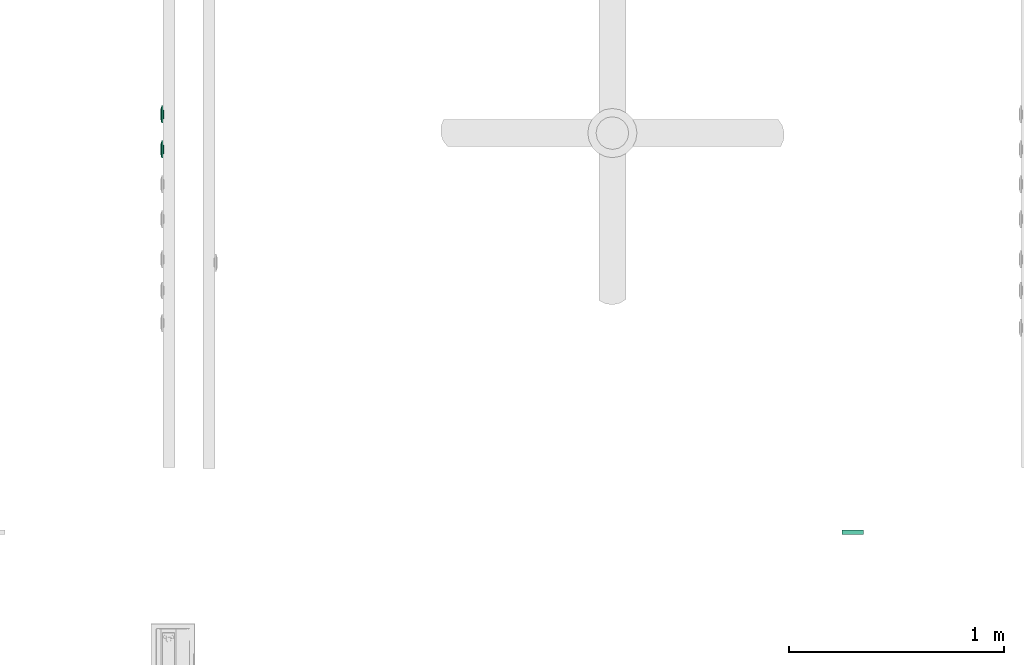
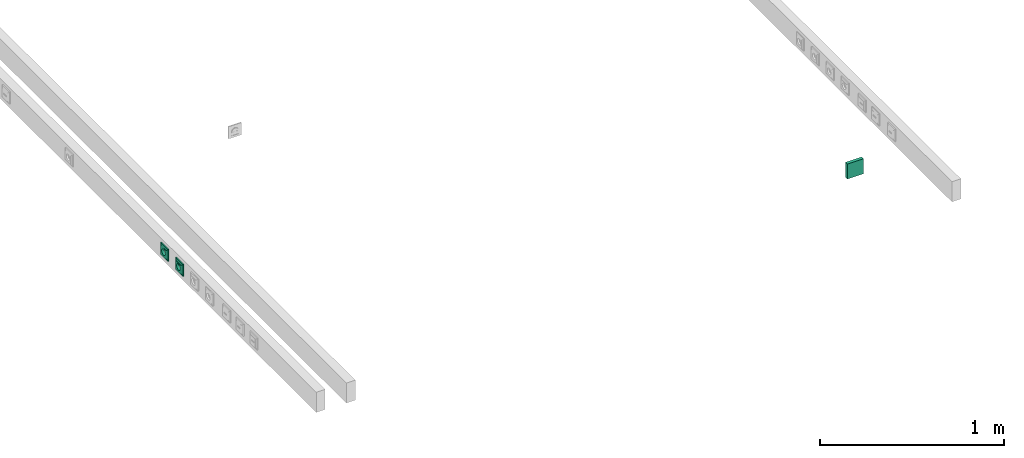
# One storey, part 40 of 166: 3 flow terminals.
"""IFC2X3 building model written with IfcOpenShell, lengths in metres."""

from ifc_helpers import new_model, entity, si_unit, converted_unit, derived_unit, direction, frame, origin, origin_2d_with_axis, place, context, subcontext, project, spatial, rectangle, extrude, face_set, surface_model, source, transform, mapped, type_object, type_shapes, element, save


model = new_model("IFC2X3")

# Units and contexts
model_context = context("Model", 3, precision=1e-05, world=origin(), true_north=direction((6.12303176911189e-17, 1.0)))
body_context = subcontext(model_context, "Body", "Model", "MODEL_VIEW")
ifc_project = project(units=[si_unit("LENGTHUNIT", "METRE"), si_unit("AREAUNIT", "SQUARE_METRE"), si_unit("VOLUMEUNIT", "CUBIC_METRE"), converted_unit("PLANEANGLEUNIT", "DEGREE", entity("IfcRatioMeasure", 0.0174532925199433), si_unit("PLANEANGLEUNIT", "RADIAN"), dimensions=[0, 0, 0, 0, 0, 0, 0]), si_unit("MASSUNIT", "GRAM", prefix="KILO"), derived_unit("MASSDENSITYUNIT", [(si_unit("MASSUNIT", "GRAM", prefix="KILO"), 1), (si_unit("LENGTHUNIT", "METRE"), -3)]), si_unit("TIMEUNIT", "SECOND"), si_unit("FREQUENCYUNIT", "HERTZ"), si_unit("THERMODYNAMICTEMPERATUREUNIT", "DEGREE_CELSIUS"), derived_unit("THERMALTRANSMITTANCEUNIT", [(si_unit("MASSUNIT", "GRAM", prefix="KILO"), 1), (si_unit("THERMODYNAMICTEMPERATUREUNIT", "KELVIN"), -1), (si_unit("TIMEUNIT", "SECOND"), -3)]), derived_unit("VOLUMETRICFLOWRATEUNIT", [(si_unit("LENGTHUNIT", "METRE"), 3), (si_unit("TIMEUNIT", "SECOND"), -1)]), si_unit("ELECTRICCURRENTUNIT", "AMPERE"), si_unit("ELECTRICVOLTAGEUNIT", "VOLT"), si_unit("POWERUNIT", "WATT"), si_unit("FORCEUNIT", "NEWTON"), si_unit("ILLUMINANCEUNIT", "LUX"), si_unit("LUMINOUSFLUXUNIT", "LUMEN"), si_unit("LUMINOUSINTENSITYUNIT", "CANDELA"), derived_unit("USERDEFINED", [(si_unit("MASSUNIT", "GRAM", prefix="KILO"), -1), (si_unit("LENGTHUNIT", "METRE"), -2), (si_unit("TIMEUNIT", "SECOND"), 3), (si_unit("LUMINOUSFLUXUNIT", "LUMEN"), 1)]), derived_unit("LINEARVELOCITYUNIT", [(si_unit("LENGTHUNIT", "METRE"), 1), (si_unit("TIMEUNIT", "SECOND"), -1)]), si_unit("PRESSUREUNIT", "PASCAL"), derived_unit("USERDEFINED", [(si_unit("LENGTHUNIT", "METRE"), -2), (si_unit("MASSUNIT", "GRAM", prefix="KILO"), 1), (si_unit("TIMEUNIT", "SECOND"), -2)])], contexts=[model_context])

# Site, building, storey
site_placement = place(None, origin())
site = spatial("IfcSite", under=ifc_project, at=site_placement, Name="Default", CompositionType="ELEMENT")
building_placement = place(site_placement, origin())
building = spatial("IfcBuilding", under=site, at=building_placement, CompositionType="ELEMENT")
storey_placement = place(building_placement, frame((0.0, 0.0, 4.27)))
storey = spatial("IfcBuildingStorey", under=building, at=storey_placement, Name="01", CompositionType="ELEMENT", Elevation=4.27)

# Flow terminals
light_fixture_type_1 = type_object("IfcLightFixtureType", Name="IP20 ONDULEE", PredefinedType="NOTDEFINED")
shared_shape_1 = source(origin(), body_context, "Body", "SurfaceModel", [
    surface_model("IfcFaceBasedSurfaceModel", [(-0.00225000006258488, 0.0127499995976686, 0.00949633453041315), (0.0, 0.0104999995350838, 0.00949633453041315), (0.0, 0.0115376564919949, 0.0101656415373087), (0.0, 0.0139623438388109, 0.0101656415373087), (0.0, 0.0144589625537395, 0.00984531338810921), (0.0, 0.0121178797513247, 0.0102778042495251), (0.0, 0.0133821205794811, 0.0102778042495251), (0.0, 0.0127499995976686, 0.010399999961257), (0.0, 0.0149999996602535, 0.00949633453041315), (0.00225000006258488, 0.0127499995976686, 0.00949633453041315), (0.0, 0.0110410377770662, 0.00984531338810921), (0.0, 0.0127499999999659, 0.00949633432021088), (0.00225000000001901, 0.0127499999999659, 0.00949633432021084), (0.00217333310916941, 0.0121676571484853, 0.00949633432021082), (0.00194855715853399, 0.0116249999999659, 0.00949633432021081), (0.00159099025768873, 0.0111590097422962, 0.00949633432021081), (0.001125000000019, 0.010801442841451, 0.00949633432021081), (0.00058234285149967, 0.0105766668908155, 0.00949633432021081), (0.0, 0.0104999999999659, 0.00949633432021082), (-0.000582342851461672, 0.0105766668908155, 0.00949633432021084), (-0.001124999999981, 0.010801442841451, 0.00949633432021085), (-0.00159099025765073, 0.0111590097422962, 0.00949633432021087), (-0.00194855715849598, 0.011624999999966, 0.00949633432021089), (-0.0021733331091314, 0.0121676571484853, 0.00949633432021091), (-0.00224999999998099, 0.012749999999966, 0.00949633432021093), (-0.00217333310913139, 0.0133323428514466, 0.00949633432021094), (-0.00194855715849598, 0.013874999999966, 0.00949633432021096), (-0.00159099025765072, 0.0143409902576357, 0.00949633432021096), (-0.00112499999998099, 0.0146985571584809, 0.00949633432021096), (-0.00058234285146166, 0.0149233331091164, 0.00949633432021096), (0.0, 0.0149999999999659, 0.00949633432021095), (0.000582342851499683, 0.0149233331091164, 0.00949633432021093), (0.00112500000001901, 0.0146985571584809, 0.00949633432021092), (0.00159099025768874, 0.0143409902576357, 0.00949633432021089), (0.001948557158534, 0.0138749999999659, 0.00949633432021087), (0.00217333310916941, 0.0133323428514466, 0.00949633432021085), (0.00225000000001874, 0.0127499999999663, -0.00360000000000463), (0.00217333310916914, 0.0121676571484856, -0.00360000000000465), (0.00194855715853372, 0.0116249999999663, -0.00360000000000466), (0.00159099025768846, 0.0111590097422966, -0.00360000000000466), (0.00112500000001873, 0.0108014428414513, -0.00360000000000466), (0.000582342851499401, 0.0105766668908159, -0.00360000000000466), (0.0, 0.0104999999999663, -0.00360000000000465), (-0.000582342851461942, 0.0105766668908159, -0.00360000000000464), (-0.00112499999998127, 0.0108014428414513, -0.00360000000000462), (-0.001590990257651, 0.0111590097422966, -0.0036000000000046), (-0.00194855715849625, 0.0116249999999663, -0.00360000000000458), (-0.00217333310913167, 0.0121676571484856, -0.00360000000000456), (-0.00224999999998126, 0.0127499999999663, -0.00360000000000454), (-0.00217333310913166, 0.013332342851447, -0.00360000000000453), (-0.00194855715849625, 0.0138749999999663, -0.00360000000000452), (-0.00159099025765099, 0.014340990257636, -0.00360000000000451), (-0.00112499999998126, 0.0146985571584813, -0.00360000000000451), (-0.000582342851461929, 0.0149233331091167, -0.00360000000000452), (0.0, 0.0149999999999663, -0.00360000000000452), (0.000582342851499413, 0.0149233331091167, -0.00360000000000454), (0.00112500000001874, 0.0146985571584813, -0.00360000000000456), (0.00159099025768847, 0.014340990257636, -0.00360000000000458), (0.00194855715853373, 0.0138749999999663, -0.0036000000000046), (0.00217333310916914, 0.013332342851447, -0.00360000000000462), (0.0270000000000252, 0.026999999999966, 0.0113999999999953), (-0.0269999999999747, 0.026999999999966, 0.0113999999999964), (-0.0269999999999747, -0.0270000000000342, 0.0113999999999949), (0.0270000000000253, -0.0270000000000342, 0.0113999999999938), (-0.0199999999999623, 0.0, 0.0113999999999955), (-0.0193185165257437, -0.00517638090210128, 0.0113999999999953), (-0.0173205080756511, -0.0100000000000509, 0.0113999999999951), (-0.0141421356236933, -0.0141421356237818, 0.011399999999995), (-0.00999999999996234, -0.0173205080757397, 0.0113999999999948), (-0.00517638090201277, -0.0193185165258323, 0.0113999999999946), (0.0, -0.0200000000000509, 0.0113999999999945), (0.00517638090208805, -0.0193185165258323, 0.0113999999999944), (0.0100000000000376, -0.0173205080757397, 0.0113999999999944), (0.0141421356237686, -0.0141421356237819, 0.0113999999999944), (0.0173205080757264, -0.010000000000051, 0.0113999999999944), (0.0193185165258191, -0.00517638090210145, 0.0113999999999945), (0.0200000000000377, 0.0, 0.0113999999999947), (0.0193185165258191, 0.00517638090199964, 0.0113999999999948), (0.0173205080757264, 0.0099999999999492, 0.011399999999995), (0.0141421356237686, 0.0141421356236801, 0.0113999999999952), (0.0100000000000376, 0.0173205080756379, 0.0113999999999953), (0.00517638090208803, 0.0193185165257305, 0.0113999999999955), (0.0, 0.0199999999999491, 0.0113999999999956), (-0.00517638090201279, 0.0193185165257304, 0.0113999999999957), (-0.00999999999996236, 0.0173205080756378, 0.0113999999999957), (-0.0141421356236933, 0.01414213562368, 0.0113999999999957), (-0.0173205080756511, 0.00999999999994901, 0.0113999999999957), (-0.0193185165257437, 0.00517638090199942, 0.0113999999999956), (0.0270000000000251, 0.0269999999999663, 0.00199999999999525), (0.0270000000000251, -0.0270000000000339, 0.00199999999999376), (-0.0269999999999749, -0.0270000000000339, 0.00199999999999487), (-0.0269999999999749, 0.0269999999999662, 0.00199999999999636), (0.0210000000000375, 0.0, 0.00199999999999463), (0.0202844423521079, -0.00543519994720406, 0.00199999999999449), (0.0181865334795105, -0.0105000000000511, 0.0019999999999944), (0.0148492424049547, -0.0148492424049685, 0.00199999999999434), (0.0105000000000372, -0.0181865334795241, 0.00199999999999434), (0.0054351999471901, -0.0202844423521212, 0.00199999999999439), (0.0, -0.0210000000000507, 0.00199999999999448), (-0.00543519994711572, -0.020284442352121, 0.00199999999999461), (-0.0104999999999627, -0.0181865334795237, 0.00199999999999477), (-0.0148492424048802, -0.014849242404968, 0.00199999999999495), (-0.0181865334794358, -0.0105000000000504, 0.00199999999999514), (-0.020284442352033, -0.00543519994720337, 0.00199999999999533), (-0.0209999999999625, 0.0, 0.00199999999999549), (-0.0202844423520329, 0.0054351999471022, 0.00199999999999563), (-0.0181865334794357, 0.0104999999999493, 0.00199999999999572), (-0.01484924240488, 0.0148492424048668, 0.00199999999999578), (-0.0104999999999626, 0.0181865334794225, 0.00199999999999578), (-0.00543519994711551, 0.0202844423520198, 0.00199999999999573), (0.0, 0.0209999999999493, 0.00199999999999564), (0.00543519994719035, 0.0202844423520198, 0.00199999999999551), (0.0105000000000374, 0.0181865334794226, 0.00199999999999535), (0.0148492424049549, 0.0148492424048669, 0.00199999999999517), (0.0181865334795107, 0.0104999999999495, 0.00199999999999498), (0.0202844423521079, 0.00543519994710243, 0.00199999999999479), (0.0200000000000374, 0.0, -0.00360000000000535), (0.0193185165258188, -0.00517638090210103, -0.00360000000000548), (0.0173205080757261, -0.0100000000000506, -0.00360000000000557), (0.0141421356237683, -0.0141421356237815, -0.00360000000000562), (0.0100000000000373, -0.0173205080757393, -0.00360000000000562), (0.00517638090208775, -0.0193185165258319, -0.00360000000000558), (0.0, -0.0200000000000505, -0.00360000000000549), (-0.00517638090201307, -0.0193185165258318, -0.00360000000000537), (-0.00999999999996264, -0.0173205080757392, -0.00360000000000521), (-0.0141421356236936, -0.0141421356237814, -0.00360000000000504), (-0.0173205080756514, -0.0100000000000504, -0.00360000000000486), (-0.019318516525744, -0.00517638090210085, -0.00360000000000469), (-0.0199999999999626, 0.0, -0.00360000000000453), (-0.0193185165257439, 0.00517638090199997, -0.0036000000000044), (-0.0173205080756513, 0.00999999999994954, -0.00360000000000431), (-0.0141421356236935, 0.0141421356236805, -0.00360000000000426), (-0.00999999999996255, 0.0173205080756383, -0.00360000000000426), (-0.00517638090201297, 0.0193185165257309, -0.0036000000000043), (0.0, 0.0199999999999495, -0.00360000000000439), (0.00517638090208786, 0.0193185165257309, -0.00360000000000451), (0.0100000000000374, 0.0173205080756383, -0.00360000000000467), (0.0141421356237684, 0.0141421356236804, -0.00360000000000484), (0.0173205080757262, 0.0099999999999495, -0.00360000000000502), (0.0193185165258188, 0.00517638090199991, -0.00360000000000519), (-0.0123499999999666, 0.0, -0.00360000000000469), (-0.0122562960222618, -0.000711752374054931, -0.00360000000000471), (-0.0119815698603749, -0.00137500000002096, -0.00360000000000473), (-0.0115445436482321, -0.00194454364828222, -0.00360000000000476), (-0.0109749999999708, -0.00238156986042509, -0.00360000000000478), (-0.0103117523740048, -0.00265629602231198, -0.0036000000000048), (-0.00959999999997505, -0.00275000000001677, -0.00360000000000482), (-0.0088882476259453, -0.00265629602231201, -0.00360000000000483), (-0.00822499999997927, -0.00238156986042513, -0.00360000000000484), (-0.00765545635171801, -0.00194454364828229, -0.00360000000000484), (-0.00721843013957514, -0.00137500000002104, -0.00360000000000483), (-0.00694370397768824, -0.000711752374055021, -0.00360000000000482), (-0.00684999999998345, 0.0, -0.0036000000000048), (-0.00694370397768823, 0.000711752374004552, -0.00360000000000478), (-0.00721843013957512, 0.00137499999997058, -0.00360000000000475), (-0.00765545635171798, 0.00194454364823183, -0.00360000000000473), (-0.00822499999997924, 0.00238156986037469, -0.0036000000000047), (-0.00888824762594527, 0.00265629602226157, -0.00360000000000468), (-0.00959999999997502, 0.00274999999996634, -0.00360000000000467), (-0.0103117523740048, 0.00265629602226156, -0.00360000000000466), (-0.0109749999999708, 0.00238156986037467, -0.00360000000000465), (-0.011544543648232, 0.00194454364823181, -0.00360000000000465), (-0.0119815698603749, 0.00137499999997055, -0.00360000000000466), (-0.0122562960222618, 0.000711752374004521, -0.00360000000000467), (0.00685000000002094, 0.0, -0.00360000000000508), (0.0069437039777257, -0.00071175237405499, -0.0036000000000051), (0.00721843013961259, -0.00137500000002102, -0.00360000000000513), (0.00765545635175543, -0.00194454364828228, -0.00360000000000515), (0.00822500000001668, -0.00238156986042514, -0.00360000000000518), (0.00888824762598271, -0.00265629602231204, -0.0036000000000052), (0.00960000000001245, -0.00275000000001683, -0.00360000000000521), (0.0103117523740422, -0.00265629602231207, -0.00360000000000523), (0.0109750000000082, -0.00238156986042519, -0.00360000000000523), (0.0115445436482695, -0.00194454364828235, -0.00360000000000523), (0.0119815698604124, -0.0013750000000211, -0.00360000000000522), (0.0122562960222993, -0.00071175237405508, -0.00360000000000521), (0.012350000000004, 0.0, -0.00360000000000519), (0.0122562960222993, 0.000711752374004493, -0.00360000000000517), (0.0119815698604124, 0.00137499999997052, -0.00360000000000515), (0.0115445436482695, 0.00194454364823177, -0.00360000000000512), (0.0109750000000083, 0.00238156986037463, -0.0036000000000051), (0.0103117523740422, 0.00265629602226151, -0.00360000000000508), (0.00960000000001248, 0.00274999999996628, -0.00360000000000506), (0.00888824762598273, 0.0026562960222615, -0.00360000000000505), (0.0082250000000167, 0.00238156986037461, -0.00360000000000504), (0.00765545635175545, 0.00194454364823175, -0.00360000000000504), (0.0072184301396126, 0.00137499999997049, -0.00360000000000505), (0.00694370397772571, 0.000711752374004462, -0.00360000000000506), (0.0210000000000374, 0.0, -0.00460000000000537), (0.0202844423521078, -0.00543519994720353, -0.00460000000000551), (0.0181865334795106, -0.0105000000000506, -0.0046000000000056), (0.0148492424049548, -0.0148492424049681, -0.00460000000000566), (0.0105000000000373, -0.0181865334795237, -0.00460000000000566), (0.00543519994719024, -0.0202844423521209, -0.00460000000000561), (0.0, -0.0210000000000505, -0.00460000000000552), (-0.00543519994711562, -0.0202844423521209, -0.00460000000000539), (-0.0104999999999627, -0.0181865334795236, -0.00460000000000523), (-0.0148492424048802, -0.0148492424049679, -0.00460000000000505), (-0.0181865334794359, -0.0105000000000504, -0.00460000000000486), (-0.0202844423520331, -0.00543519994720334, -0.00460000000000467), (-0.0209999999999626, 0.0, -0.00460000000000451), (-0.020284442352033, 0.00543519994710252, -0.00460000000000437), (-0.0181865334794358, 0.0104999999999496, -0.00460000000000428), (-0.0148492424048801, 0.0148492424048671, -0.00460000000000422), (-0.0104999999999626, 0.0181865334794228, -0.00460000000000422), (-0.00543519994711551, 0.02028444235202, -0.00460000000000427), (0.0, 0.0209999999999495, -0.00460000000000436), (0.00543519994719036, 0.02028444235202, -0.00460000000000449), (0.0105000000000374, 0.0181865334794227, -0.00460000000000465), (0.0148492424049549, 0.014849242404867, -0.00460000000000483), (0.0181865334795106, 0.0104999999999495, -0.00460000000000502), (0.0202844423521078, 0.00543519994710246, -0.00460000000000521), (-0.00684999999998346, 0.0, -0.0046000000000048), (-0.00694370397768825, 0.000711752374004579, -0.00460000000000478), (-0.00721843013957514, 0.00137499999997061, -0.00460000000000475), (-0.007655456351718, 0.00194454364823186, -0.00460000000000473), (-0.00822499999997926, 0.00238156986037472, -0.0046000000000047), (-0.00888824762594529, 0.0026562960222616, -0.00460000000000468), (-0.00959999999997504, 0.00274999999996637, -0.00460000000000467), (-0.0103117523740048, 0.00265629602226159, -0.00460000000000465), (-0.0109749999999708, 0.0023815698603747, -0.00460000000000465), (-0.0115445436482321, 0.00194454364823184, -0.00460000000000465), (-0.0119815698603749, 0.00137499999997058, -0.00460000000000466), (-0.0122562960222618, 0.000711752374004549, -0.00460000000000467), (-0.0123499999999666, 0.0, -0.00460000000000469), (-0.0122562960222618, -0.000711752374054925, -0.00460000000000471), (-0.0119815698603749, -0.00137500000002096, -0.00460000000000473), (-0.0115445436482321, -0.00194454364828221, -0.00460000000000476), (-0.0109749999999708, -0.00238156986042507, -0.00460000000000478), (-0.0103117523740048, -0.00265629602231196, -0.0046000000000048), (-0.00959999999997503, -0.00275000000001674, -0.00460000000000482), (-0.00888824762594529, -0.00265629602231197, -0.00460000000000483), (-0.00822499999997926, -0.00238156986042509, -0.00460000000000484), (-0.007655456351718, -0.00194454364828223, -0.00460000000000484), (-0.00721843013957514, -0.00137500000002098, -0.00460000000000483), (-0.00694370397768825, -0.000711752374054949, -0.00460000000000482), (0.012350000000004, 0.0, -0.00460000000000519), (0.0122562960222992, 0.000711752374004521, -0.00460000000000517), (0.0119815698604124, 0.00137499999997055, -0.00460000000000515), (0.0115445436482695, 0.0019445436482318, -0.00460000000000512), (0.0109750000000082, 0.00238156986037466, -0.0046000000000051), (0.0103117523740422, 0.00265629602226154, -0.00460000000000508), (0.00960000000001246, 0.00274999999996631, -0.00460000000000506), (0.00888824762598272, 0.00265629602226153, -0.00460000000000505), (0.00822500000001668, 0.00238156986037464, -0.00460000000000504), (0.00765545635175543, 0.00194454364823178, -0.00460000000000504), (0.00721843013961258, 0.00137499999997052, -0.00460000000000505), (0.00694370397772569, 0.00071175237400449, -0.00460000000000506), (0.00685000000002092, 0.0, -0.00460000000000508), (0.00694370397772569, -0.000711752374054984, -0.0046000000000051), (0.00721843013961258, -0.00137500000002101, -0.00460000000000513), (0.00765545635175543, -0.00194454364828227, -0.00460000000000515), (0.00822500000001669, -0.00238156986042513, -0.00460000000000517), (0.00888824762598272, -0.00265629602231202, -0.0046000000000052), (0.00960000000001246, -0.0027500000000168, -0.00460000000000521), (0.0103117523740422, -0.00265629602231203, -0.00460000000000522), (0.0109750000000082, -0.00238156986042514, -0.00460000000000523), (0.0115445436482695, -0.00194454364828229, -0.00460000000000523), (0.0119815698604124, -0.00137500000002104, -0.00460000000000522), (0.0122562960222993, -0.000711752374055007, -0.00460000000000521), (0.040350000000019, 0.0403499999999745, 0.00659999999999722), (0.040350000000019, -0.0403500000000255, 0.00659999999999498), (-0.0403499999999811, -0.0403500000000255, 0.00659999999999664), (-0.0403499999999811, 0.0403499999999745, 0.00659999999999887), (0.027000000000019, 0.0269999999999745, 0.00659999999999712), (-0.0269999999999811, 0.0269999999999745, 0.00659999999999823), (-0.026999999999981, -0.0270000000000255, 0.00659999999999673), (0.027000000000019, -0.0270000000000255, 0.00659999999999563), (0.027000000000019, 0.0269999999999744, 0.0103999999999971), (-0.026999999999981, 0.0269999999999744, 0.0103999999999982), (-0.026999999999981, -0.0270000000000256, 0.0103999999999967), (0.027000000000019, -0.0270000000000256, 0.0103999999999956), (0.040350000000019, 0.0403499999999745, 0.00659999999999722), (0.040350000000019, -0.0403500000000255, 0.00659999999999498), (-0.0403499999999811, -0.0403500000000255, 0.00659999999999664), (-0.0403499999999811, 0.0403499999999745, 0.00659999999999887), (-0.0269999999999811, 0.0269999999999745, 0.00659999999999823), (-0.0269999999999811, -0.0270000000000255, 0.00659999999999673), (0.0270000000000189, -0.0270000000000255, 0.00659999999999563), (0.0270000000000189, 0.0269999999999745, 0.00659999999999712), (0.0403500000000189, 0.0403499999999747, 0.0), (0.0403500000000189, -0.0403500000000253, 0.0), (-0.0403499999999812, -0.0403500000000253, 0.0), (-0.0403499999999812, 0.0403499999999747, 0.0), (0.0270000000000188, 0.0269999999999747, 0.0), (-0.0269999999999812, 0.0269999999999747, 0.0), (-0.0269999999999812, -0.0270000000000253, 0.0), (0.0270000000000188, -0.0270000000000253, 0.0)], [face_set([[[0, 1, 2]], [[3, 4, 2, 5]], [[6, 3, 5, 7]], [[2, 4, 0]], [[4, 8, 0]], [[3, 9, 8]], [[1, 9, 10]], [[2, 3, 6, 7]], [[3, 10, 9]], [[2, 10, 3]], [[11, 1, 0, 8]], [[11, 8, 9, 1]]]), face_set([[[12, 13, 14, 15, 16, 17, 18, 19, 20, 21, 22, 23, 24, 25, 26, 27, 28, 29, 30, 31, 32, 33, 34, 35]], [[36, 37, 38, 39, 40, 41, 42, 43, 44, 45, 46, 47, 48, 49, 50, 51, 52, 53, 54, 55, 56, 57, 58, 59]], [[48, 47, 23, 24]], [[47, 46, 22, 23]], [[45, 44, 20, 21]], [[46, 45, 21, 22]], [[44, 43, 19, 20]], [[18, 19, 43, 42]], [[42, 41, 17, 18]], [[41, 40, 16, 17]], [[39, 38, 14, 15]], [[40, 39, 15, 16]], [[38, 37, 13, 14]], [[12, 13, 37, 36]], [[36, 59, 35, 12]], [[59, 58, 34, 35]], [[57, 56, 32, 33]], [[58, 57, 33, 34]], [[56, 55, 31, 32]], [[30, 31, 55, 54]], [[54, 53, 29, 30]], [[53, 52, 28, 29]], [[51, 50, 26, 27]], [[52, 51, 27, 28]], [[50, 49, 25, 26]], [[24, 25, 49, 48]]]), face_set([[[60, 61, 62, 63], [64, 65, 66, 67, 68, 69, 70, 71, 72, 73, 74, 75, 76, 77, 78, 79, 80, 81, 82, 83, 84, 85, 86, 87]], [[88, 89, 90, 91], [92, 93, 94, 95, 96, 97, 98, 99, 100, 101, 102, 103, 104, 105, 106, 107, 108, 109, 110, 111, 112, 113, 114, 115]], [[61, 60, 88, 91]], [[62, 61, 91, 90]], [[63, 62, 90, 89]], [[60, 63, 89, 88]], [[116, 117, 118, 119, 120, 121, 122, 123, 124, 125, 126, 127, 128, 129, 130, 131, 132, 133, 134, 135, 136, 137, 138, 139], [140, 141, 142, 143, 144, 145, 146, 147, 148, 149, 150, 151, 152, 153, 154, 155, 156, 157, 158, 159, 160, 161, 162, 163], [164, 165, 166, 167, 168, 169, 170, 171, 172, 173, 174, 175, 176, 177, 178, 179, 180, 181, 182, 183, 184, 185, 186, 187]], [[64, 128, 127, 65]], [[65, 127, 126, 66]], [[67, 125, 124, 68]], [[66, 126, 125, 67]], [[68, 124, 123, 69]], [[122, 70, 69, 123]], [[70, 122, 121, 71]], [[71, 121, 120, 72]], [[73, 119, 118, 74]], [[72, 120, 119, 73]], [[74, 118, 117, 75]], [[116, 76, 75, 117]], [[76, 116, 139, 77]], [[77, 139, 138, 78]], [[79, 137, 136, 80]], [[78, 138, 137, 79]], [[80, 136, 135, 81]], [[134, 82, 81, 135]], [[82, 134, 133, 83]], [[83, 133, 132, 84]], [[84, 132, 131, 85]], [[85, 131, 130, 86]], [[130, 129, 87, 86]], [[64, 87, 129, 128]], [[188, 189, 190, 191, 192, 193, 194, 195, 196, 197, 198, 199, 200, 201, 202, 203, 204, 205, 206, 207, 208, 209, 210, 211], [212, 213, 214, 215, 216, 217, 218, 219, 220, 221, 222, 223, 224, 225, 226, 227, 228, 229, 230, 231, 232, 233, 234, 235], [236, 237, 238, 239, 240, 241, 242, 243, 244, 245, 246, 247, 248, 249, 250, 251, 252, 253, 254, 255, 256, 257, 258, 259]], [[200, 199, 103, 104]], [[199, 198, 102, 103]], [[197, 196, 100, 101]], [[198, 197, 101, 102]], [[196, 195, 99, 100]], [[98, 99, 195, 194]], [[194, 193, 97, 98]], [[193, 192, 96, 97]], [[191, 190, 94, 95]], [[192, 191, 95, 96]], [[190, 189, 93, 94]], [[92, 93, 189, 188]], [[188, 211, 115, 92]], [[211, 210, 114, 115]], [[209, 208, 112, 113]], [[210, 209, 113, 114]], [[208, 207, 111, 112]], [[110, 111, 207, 206]], [[206, 205, 109, 110]], [[205, 204, 108, 109]], [[203, 202, 106, 107]], [[204, 203, 107, 108]], [[202, 201, 105, 106]], [[104, 105, 201, 200]], [[141, 225, 226, 142]], [[140, 224, 225, 141]], [[144, 228, 229, 145]], [[143, 227, 228, 144]], [[142, 226, 227, 143]], [[230, 146, 145, 229]], [[149, 233, 232, 148]], [[148, 232, 231, 147]], [[152, 212, 235, 151]], [[151, 235, 234, 150]], [[150, 234, 233, 149]], [[146, 230, 231, 147]], [[154, 214, 213, 153]], [[153, 213, 212, 152]], [[157, 217, 216, 156]], [[156, 216, 215, 155]], [[155, 215, 214, 154]], [[218, 158, 157, 217]], [[160, 220, 221, 161]], [[159, 219, 220, 160]], [[163, 223, 224, 140]], [[162, 222, 223, 163]], [[161, 221, 222, 162]], [[158, 218, 219, 159]], [[166, 250, 249, 165]], [[165, 249, 248, 164]], [[169, 253, 252, 168]], [[168, 252, 251, 167]], [[167, 251, 250, 166]], [[254, 170, 169, 253]], [[172, 256, 257, 173]], [[171, 255, 256, 172]], [[175, 259, 236, 176]], [[174, 258, 259, 175]], [[173, 257, 258, 174]], [[170, 254, 255, 171]], [[177, 237, 238, 178]], [[176, 236, 237, 177]], [[180, 240, 241, 181]], [[179, 239, 240, 180]], [[178, 238, 239, 179]], [[242, 182, 181, 241]], [[185, 245, 244, 184]], [[184, 244, 243, 183]], [[164, 248, 247, 187]], [[187, 247, 246, 186]], [[186, 246, 245, 185]], [[182, 242, 243, 183]]]), face_set([[[260, 261, 262, 263], [264, 265, 266, 267]], [[260, 268, 269, 263]], [[263, 269, 270, 262]], [[262, 270, 271, 261]], [[261, 271, 268, 260]], [[264, 265, 269, 268]], [[265, 266, 270, 269]], [[266, 267, 271, 270]], [[268, 271, 267, 264]]]), face_set([[[272, 273, 274, 275], [276, 277, 278, 279]], [[280, 281, 282, 283], [284, 285, 286, 287]], [[275, 272, 280, 283]], [[274, 275, 283, 282]], [[273, 274, 282, 281]], [[272, 273, 281, 280]], [[284, 285, 276, 279]], [[285, 286, 277, 276]], [[286, 287, 278, 277]], [[279, 278, 287, 284]]])]),
])
type_shapes(light_fixture_type_1, [shared_shape_1])
for number, where, z_axis, x_axis in (
    (1, (33.3667436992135, -191.55310839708, 4.70800000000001), (-1.0, 0.0, 0.0), (0.0, -1.0, 0.0)),
    (2, (33.3667436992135, -191.71610839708, 4.70800000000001), (-1.0, 0.0, 0.0), (0.0, -1.0, 0.0)),
):
    element("IfcFlowTerminal", number, at=place(building_placement, frame(where, z_axis=z_axis, x_axis=x_axis)), inside=storey, type_object=light_fixture_type_1, Name="INT Prise de courant:IP20 ONDULEE", ObjectType="INT Prise de courant:IP20 ONDULEE", context=body_context, shape_type="MappedRepresentation", body=[
        mapped(shared_shape_1, transform((0.0, 0.0, 0.0), scale=1.0)),
    ])
light_fixture_type_2 = type_object("IfcLightFixtureType", Name="Default", PredefinedType="NOTDEFINED")
shared_shape_2 = source(origin(), body_context, "Body", "SweptSolid", [
    extrude(rectangle(XDim=0.1, YDim=0.1, at=origin_2d_with_axis()), frame((0.0, 0.0, 0.0), z_axis=(0.0, 0.0, 1.0), x_axis=(0.0, 1.0, 0.0)), (0.0, 0.0, 1.0), 0.02),
])
type_shapes(light_fixture_type_2, [shared_shape_2])
flow_terminal_placement = place(building_placement, frame((36.5797436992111, -193.489651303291, 5.32000000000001), z_axis=(0.0, -1.0, 0.0), x_axis=(1.0, 0.0, 0.0)))
element("IfcFlowTerminal", 3, at=flow_terminal_placement, inside=storey, type_object=light_fixture_type_2, Name="E_Reader_Badge 1_F_MEPcontent:Default", ObjectType="E_Reader_Badge 1_F_MEPcontent:Default", context=body_context, shape_type="MappedRepresentation", body=[
    mapped(shared_shape_2, transform((0.0, 0.0, 0.0), scale=1.0)),
])

save(model, "model.ifc")
